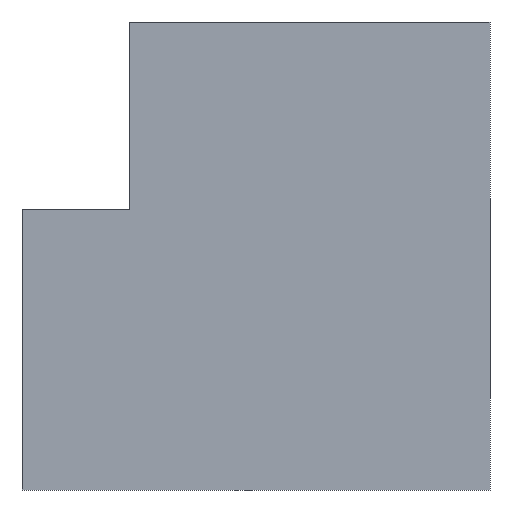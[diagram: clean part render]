
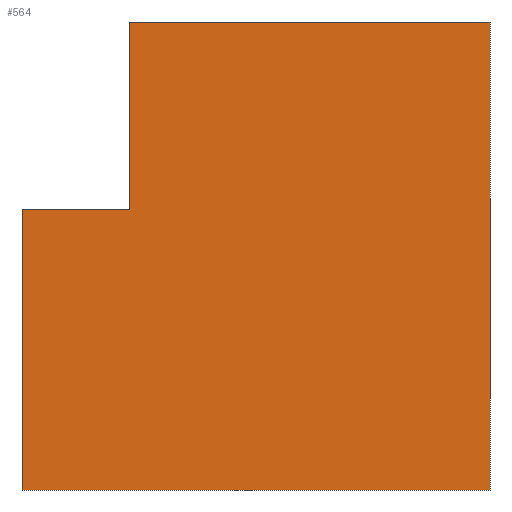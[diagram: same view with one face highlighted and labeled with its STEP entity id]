
A CAD part, front view. The second image highlights one B-rep face of the part: STEP entity #564.
In plain terms, the highlighted planar face has unit normal (0, -1, 0).
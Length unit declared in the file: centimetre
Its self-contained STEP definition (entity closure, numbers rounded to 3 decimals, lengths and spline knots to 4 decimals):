
#8 = LINE ( 'NONE', #15, #534 ) ;
#13 = CARTESIAN_POINT ( 'NONE',  ( 229.3806, 0., 598.3868 ) ) ;
#15 = CARTESIAN_POINT ( 'NONE',  ( 0., 0., 0. ) ) ;
#20 = DIRECTION ( 'NONE',  ( 0., 0., -1. ) ) ;
#43 = ORIENTED_EDGE ( 'NONE', *, *, #747, .F. ) ;
#54 = DIRECTION ( 'NONE',  ( 0., 0., 1. ) ) ;
#61 = DIRECTION ( 'NONE',  ( 0., 0., -1. ) ) ;
#83 = LINE ( 'NONE', #13, #689 ) ;
#129 = ORIENTED_EDGE ( 'NONE', *, *, #142, .F. ) ;
#142 = EDGE_CURVE ( 'NONE', #595, #651, #459, .T. ) ;
#150 = VECTOR ( 'NONE', #61, 100. ) ;
#166 = CARTESIAN_POINT ( 'NONE',  ( 229.3806, 0., 1000. ) ) ;
#192 = VECTOR ( 'NONE', #495, 100. ) ;
#194 = VECTOR ( 'NONE', #233, 100. ) ;
#206 = VERTEX_POINT ( 'NONE', #596 ) ;
#222 = DIRECTION ( 'NONE',  ( 0., 0., 1. ) ) ;
#231 = VECTOR ( 'NONE', #20, 100. ) ;
#233 = DIRECTION ( 'NONE',  ( 1., 0., 0. ) ) ;
#275 = VERTEX_POINT ( 'NONE', #166 ) ;
#287 = EDGE_CURVE ( 'NONE', #647, #651, #8, .T. ) ;
#296 = EDGE_CURVE ( 'NONE', #206, #452, #489, .T. ) ;
#298 = CARTESIAN_POINT ( 'NONE',  ( 0., 0., 598.3868 ) ) ;
#300 = EDGE_LOOP ( 'NONE', ( #43, #598, #787, #508, #576, #129 ) ) ;
#340 = CARTESIAN_POINT ( 'NONE',  ( 0., 0., 0. ) ) ;
#348 = LINE ( 'NONE', #705, #231 ) ;
#367 = EDGE_CURVE ( 'NONE', #206, #647, #348, .T. ) ;
#396 = PLANE ( 'NONE',  #607 ) ;
#434 = DIRECTION ( 'NONE',  ( 1., 0., 0. ) ) ;
#451 = CARTESIAN_POINT ( 'NONE',  ( 229.3806, 0., 598.3868 ) ) ;
#452 = VERTEX_POINT ( 'NONE', #451 ) ;
#459 = LINE ( 'NONE', #750, #150 ) ;
#467 = CARTESIAN_POINT ( 'NONE',  ( 1000., 0., 0. ) ) ;
#489 = LINE ( 'NONE', #298, #194 ) ;
#495 = DIRECTION ( 'NONE',  ( 1., 0., 0. ) ) ;
#508 = ORIENTED_EDGE ( 'NONE', *, *, #367, .T. ) ;
#534 = VECTOR ( 'NONE', #434, 100. ) ;
#564 = ADVANCED_FACE ( 'NONE', ( #720 ), #396, .F. ) ;
#576 = ORIENTED_EDGE ( 'NONE', *, *, #287, .T. ) ;
#595 = VERTEX_POINT ( 'NONE', #820 ) ;
#596 = CARTESIAN_POINT ( 'NONE',  ( 0., 0., 598.3868 ) ) ;
#598 = ORIENTED_EDGE ( 'NONE', *, *, #792, .F. ) ;
#600 = DIRECTION ( 'NONE',  ( 0., 1., 0. ) ) ;
#607 = AXIS2_PLACEMENT_3D ( 'NONE', #879, #600, #54 ) ;
#634 = CARTESIAN_POINT ( 'NONE',  ( 0., 0., 1000. ) ) ;
#647 = VERTEX_POINT ( 'NONE', #340 ) ;
#651 = VERTEX_POINT ( 'NONE', #467 ) ;
#689 = VECTOR ( 'NONE', #222, 100. ) ;
#705 = CARTESIAN_POINT ( 'NONE',  ( 0., 0., 1000. ) ) ;
#720 = FACE_OUTER_BOUND ( 'NONE', #300, .T. ) ;
#747 = EDGE_CURVE ( 'NONE', #275, #595, #766, .T. ) ;
#750 = CARTESIAN_POINT ( 'NONE',  ( 1000., 0., 1000. ) ) ;
#766 = LINE ( 'NONE', #634, #192 ) ;
#787 = ORIENTED_EDGE ( 'NONE', *, *, #296, .F. ) ;
#792 = EDGE_CURVE ( 'NONE', #452, #275, #83, .T. ) ;
#820 = CARTESIAN_POINT ( 'NONE',  ( 1000., 0., 1000. ) ) ;
#879 = CARTESIAN_POINT ( 'NONE',  ( 0., 0., 1000. ) ) ;
